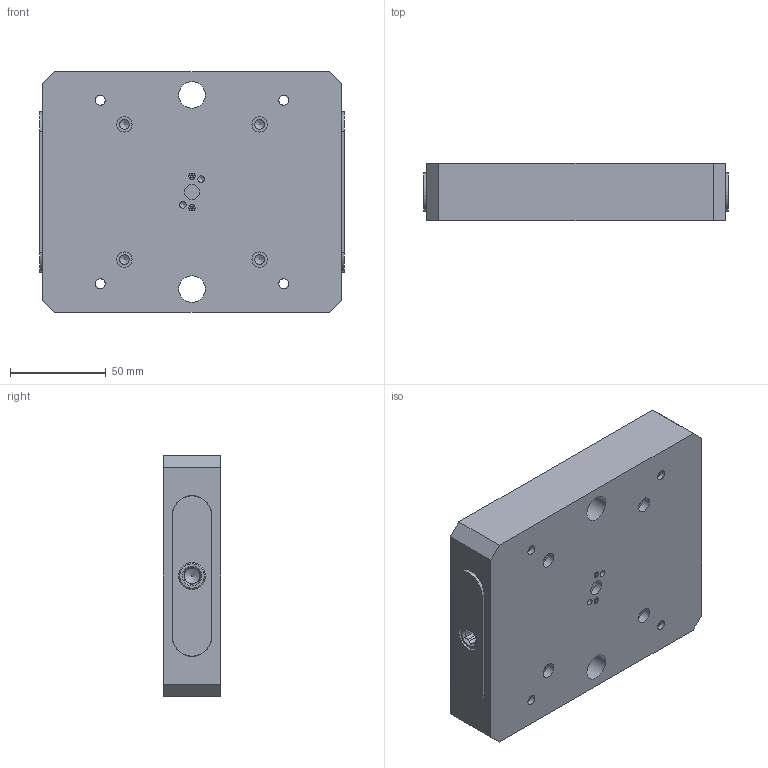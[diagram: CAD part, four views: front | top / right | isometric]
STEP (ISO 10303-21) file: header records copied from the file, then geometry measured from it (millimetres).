
FILE_DESCRIPTION (( 'STEP AP214' ), '1' );
FILE_NAME ('RL96S-56_WEBSITE.STEP', '2025-08-11T11:34:25', ( '' ), ( '' ), 'SwSTEP 2.0', 'SolidWorks 2025', '' );
FILE_SCHEMA (( 'AUTOMOTIVE_DESIGN' ));
Length unit declared in the file: inch
Products named in the file (10): D_RL96-3_WEBSITE; D_SB54_WEBSITE_FINISHED PART; D_RL96-2L_WEBSITE; 9452K183-Base-O-Ring_WEBSITE; 9452K121-Truck-O-Ring_WEBSITE; 9750K730_PLASTIC ROUND PLUG_WEBSITE_9750K73; D_RL96-2R_WEBSITE; D_RL96-156S_WEBSITE; RL96S-56_WEBSITE; D_HW27X20.DB_WEBSITE
Assembly tree (16 placements, depth 2):
  9750K730_PLASTIC ROUND PLUG_WEBSITE_9750K73
  RL96S-56_WEBSITE
    D_RL96-156S_WEBSITE
    D_RL96-2L_WEBSITE
    D_SB54_WEBSITE_FINISHED PART  x2
    D_HW27X20.DB_WEBSITE  x4
    D_RL96-2R_WEBSITE
    D_RL96-3_WEBSITE
    9452K183-Base-O-Ring_WEBSITE  x4
    9452K121-Truck-O-Ring_WEBSITE  x2
Bounding box: 159.21 x 30 x 126 mm (x, y, z)
Volume: 501532.9 mm3; surface area: 121024 mm2
Topology: 18 solids, 18 shells, 302 faces, 670 edges, 422 vertices
Faces by surface type: plane 175, cylinder 95, cone 20, torus 10, bspline 2
Full cylindrical faces by diameter (mm): 0.127 x2, 2.5 x2, 3.3 x4, 4 x2, 4.7 x2, 5 x6, 5.182 x6, 8.016 x4, 8.026 x1, 8.204 x2, 9 x2, 9.525 x2, 10.795 x1, 11.938 x4, 12.573 x4, 13.894 x2, 14 x2, 15.748 x2, 19.05 x2, 19.126 x4, 19.99 x1, 20.008 x4, 20.035 x4, 20.638 x2, 26.977 x4, 26.993 x4, 27.051 x4
Entity records: 9362 total; most frequent: CARTESIAN_POINT 3209, DIRECTION 1170, ORIENTED_EDGE 920, AXIS2_PLACEMENT_3D 479, EDGE_CURVE 460, EDGE_LOOP 404, VERTEX_POINT 336, FACE_OUTER_BOUND 323
